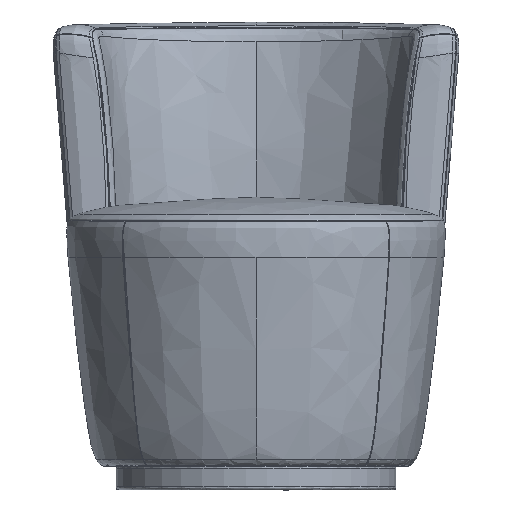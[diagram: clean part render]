
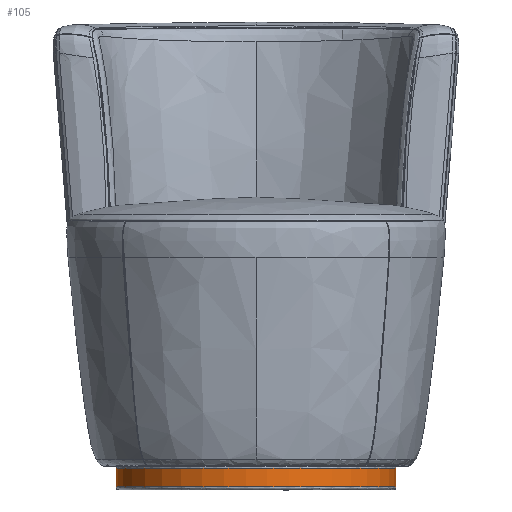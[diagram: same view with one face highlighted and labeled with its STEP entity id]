
A CAD part, front view. The second image highlights one B-rep face of the part: STEP entity #105.
In plain terms, the highlighted free-form (B-spline) face has degree [2, 1] with [5, 2] control points.
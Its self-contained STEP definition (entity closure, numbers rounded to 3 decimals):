
#105=ADVANCED_FACE('',(#241),#1814,.T.);
#241=FACE_OUTER_BOUND('',#377,.T.);
#377=EDGE_LOOP('',(#564,#565,#566,#567));
#564=ORIENTED_EDGE('',*,*,#1087,.T.);
#565=ORIENTED_EDGE('',*,*,#1081,.T.);
#566=ORIENTED_EDGE('',*,*,#1088,.F.);
#567=ORIENTED_EDGE('',*,*,#1086,.F.);
#1081=EDGE_CURVE('',#1649,#1650,#1353,.T.);
#1086=EDGE_CURVE('',#1653,#1654,#1358,.T.);
#1087=EDGE_CURVE('',#1653,#1649,#1359,.T.);
#1088=EDGE_CURVE('',#1654,#1650,#1360,.T.);
#1353=(
BOUNDED_CURVE()
B_SPLINE_CURVE(1,(#4481,#4482),.UNSPECIFIED.,.F.,.F.)
B_SPLINE_CURVE_WITH_KNOTS((2,2),(5.,35.),.UNSPECIFIED.)
CURVE()
GEOMETRIC_REPRESENTATION_ITEM()
RATIONAL_B_SPLINE_CURVE((1.,1.))
REPRESENTATION_ITEM('')
);
#1358=(
BOUNDED_CURVE()
B_SPLINE_CURVE(1,(#4563,#4564),.UNSPECIFIED.,.F.,.F.)
B_SPLINE_CURVE_WITH_KNOTS((2,2),(5.,35.),.UNSPECIFIED.)
CURVE()
GEOMETRIC_REPRESENTATION_ITEM()
RATIONAL_B_SPLINE_CURVE((1.,1.))
REPRESENTATION_ITEM('')
);
#1359=(
BOUNDED_CURVE()
B_SPLINE_CURVE(2,(#4565,#4566,#4567,#4568,#4569),.UNSPECIFIED.,.F.,.F.)
B_SPLINE_CURVE_WITH_KNOTS((3,2,3),(692.306,1038.459,1384.612),
 .UNSPECIFIED.)
CURVE()
GEOMETRIC_REPRESENTATION_ITEM()
RATIONAL_B_SPLINE_CURVE((1.,0.707,1.,0.707,1.))
REPRESENTATION_ITEM('')
);
#1360=(
BOUNDED_CURVE()
B_SPLINE_CURVE(2,(#4570,#4571,#4572,#4573,#4574),.UNSPECIFIED.,.F.,.F.)
B_SPLINE_CURVE_WITH_KNOTS((3,2,3),(692.306,1038.459,1384.612),
 .UNSPECIFIED.)
CURVE()
GEOMETRIC_REPRESENTATION_ITEM()
RATIONAL_B_SPLINE_CURVE((1.,0.707,1.,0.707,1.))
REPRESENTATION_ITEM('')
);
#1649=VERTEX_POINT('',#4463);
#1650=VERTEX_POINT('',#4464);
#1653=VERTEX_POINT('',#4467);
#1654=VERTEX_POINT('',#4468);
#1814=(
BOUNDED_SURFACE()
B_SPLINE_SURFACE(2,1,((#4231,#4232),(#4233,#4234),(#4235,#4236),(#4237,
#4238),(#4239,#4240)),.UNSPECIFIED.,.F.,.F.,.F.)
B_SPLINE_SURFACE_WITH_KNOTS((3,2,3),(2,2),(753.982,1130.973,
1507.964),(0.,40.),.UNSPECIFIED.)
GEOMETRIC_REPRESENTATION_ITEM()
RATIONAL_B_SPLINE_SURFACE(((1.,1.),(0.707,0.707),
(1.,1.),(0.707,0.707),(1.,1.)))
REPRESENTATION_ITEM('')
SURFACE()
);
#4231=CARTESIAN_POINT('',(-22.546,0.,0.));
#4232=CARTESIAN_POINT('',(-22.546,0.,3.973));
#4233=CARTESIAN_POINT('',(-22.546,-22.537,0.));
#4234=CARTESIAN_POINT('',(-22.546,-22.537,3.973));
#4235=CARTESIAN_POINT('',(-0.009,-22.537,0.));
#4236=CARTESIAN_POINT('',(-0.009,-22.537,3.973));
#4237=CARTESIAN_POINT('',(22.527,-22.537,0.));
#4238=CARTESIAN_POINT('',(22.527,-22.537,3.973));
#4239=CARTESIAN_POINT('',(22.527,0.,0.));
#4240=CARTESIAN_POINT('',(22.527,0.,3.973));
#4463=CARTESIAN_POINT('',(22.527,0.,0.497));
#4464=CARTESIAN_POINT('',(22.527,0.,3.476));
#4467=CARTESIAN_POINT('',(-22.546,0.,0.497));
#4468=CARTESIAN_POINT('',(-22.546,0.,3.476));
#4481=CARTESIAN_POINT('',(22.527,0.,0.497));
#4482=CARTESIAN_POINT('',(22.527,0.,3.476));
#4563=CARTESIAN_POINT('',(-22.546,0.,0.497));
#4564=CARTESIAN_POINT('',(-22.546,0.,3.476));
#4565=CARTESIAN_POINT('',(-22.546,0.,0.497));
#4566=CARTESIAN_POINT('',(-22.546,-22.537,0.497));
#4567=CARTESIAN_POINT('',(-0.009,-22.537,0.497));
#4568=CARTESIAN_POINT('',(22.527,-22.537,0.497));
#4569=CARTESIAN_POINT('',(22.527,0.,0.497));
#4570=CARTESIAN_POINT('',(-22.546,0.,3.476));
#4571=CARTESIAN_POINT('',(-22.546,-22.537,3.476));
#4572=CARTESIAN_POINT('',(-0.009,-22.537,3.476));
#4573=CARTESIAN_POINT('',(22.527,-22.537,3.476));
#4574=CARTESIAN_POINT('',(22.527,0.,3.476));
